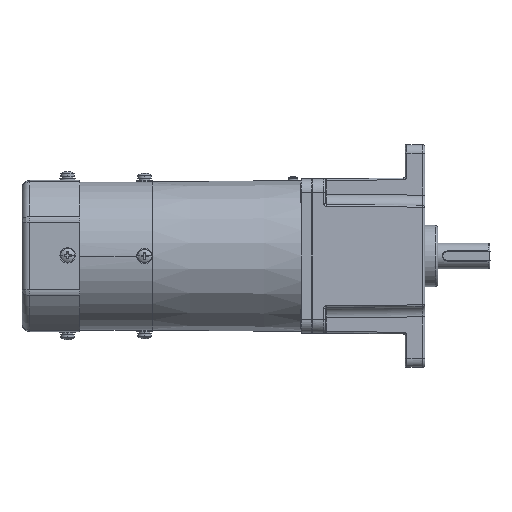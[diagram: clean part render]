
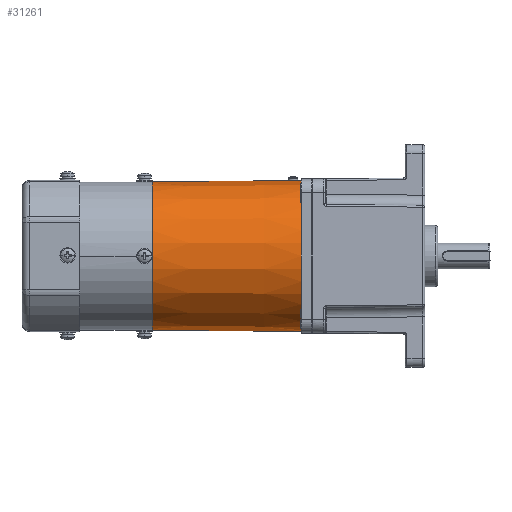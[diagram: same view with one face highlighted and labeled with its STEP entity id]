
A CAD part, front view. The second image highlights one B-rep face of the part: STEP entity #31261.
In plain terms, the highlighted conical face has half-angle 0.503 degrees and reference radius 43.236 mm.
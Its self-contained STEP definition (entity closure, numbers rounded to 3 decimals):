
#1905 = AXIS2_PLACEMENT_3D ( 'NONE', #7081, #46329, #18418 ) ;
#3068 = FACE_OUTER_BOUND ( 'NONE', #24271, .T. ) ;
#4113 = ORIENTED_EDGE ( 'NONE', *, *, #11724, .T. ) ;
#4123 = ORIENTED_EDGE ( 'NONE', *, *, #34391, .T. ) ;
#4534 = AXIS2_PLACEMENT_3D ( 'NONE', #41868, #7385, #8147 ) ;
#6750 = CONICAL_SURFACE ( 'NONE', #1905, 43.236, 0.009 ) ;
#6751 = CARTESIAN_POINT ( 'NONE',  ( 2545.293, -775.157, -43.236 ) ) ;
#7081 = CARTESIAN_POINT ( 'NONE',  ( 2545.293, -775.157, 0. ) ) ;
#7385 = DIRECTION ( 'NONE',  ( -1., 0., 0. ) ) ;
#8147 = DIRECTION ( 'NONE',  ( 0., 0., 1. ) ) ;
#9113 = EDGE_CURVE ( 'NONE', #12146, #20954, #45269, .T. ) ;
#10876 = DIRECTION ( 'NONE',  ( 1., 0., 0.009 ) ) ;
#11724 = EDGE_CURVE ( 'NONE', #20954, #23103, #22956, .T. ) ;
#11844 = CARTESIAN_POINT ( 'NONE',  ( -2380.797, -775.157, 0. ) ) ;
#12146 = VERTEX_POINT ( 'NONE', #6751 ) ;
#13004 = EDGE_CURVE ( 'NONE', #12146, #32248, #26234, .T. ) ;
#13140 = CARTESIAN_POINT ( 'NONE',  ( 2632.292, -775.157, 0. ) ) ;
#14449 = EDGE_CURVE ( 'NONE', #32248, #20740, #36306, .T. ) ;
#17664 = DIRECTION ( 'NONE',  ( -1., 0., 0. ) ) ;
#18012 = ORIENTED_EDGE ( 'NONE', *, *, #13004, .F. ) ;
#18418 = DIRECTION ( 'NONE',  ( 0., 0., -1. ) ) ;
#20202 = CARTESIAN_POINT ( 'NONE',  ( 2622.292, -775.157, 43.912 ) ) ;
#20740 = VERTEX_POINT ( 'NONE', #20202 ) ;
#20954 = VERTEX_POINT ( 'NONE', #38296 ) ;
#22630 = DIRECTION ( 'NONE',  ( 1., 0., -0.009 ) ) ;
#22956 = CIRCLE ( 'NONE', #36605, 44. ) ;
#23103 = VERTEX_POINT ( 'NONE', #24709 ) ;
#24271 = EDGE_LOOP ( 'NONE', ( #37264, #18012, #30547, #4113, #4123 ) ) ;
#24709 = CARTESIAN_POINT ( 'NONE',  ( 2632.292, -775.157, 44. ) ) ;
#26234 = CIRCLE ( 'NONE', #4534, 43.236 ) ;
#27681 = DIRECTION ( 'NONE',  ( -1., 0., -0.009 ) ) ;
#28577 = VECTOR ( 'NONE', #27681, 1000. ) ;
#30547 = ORIENTED_EDGE ( 'NONE', *, *, #9113, .T. ) ;
#31261 = ADVANCED_FACE ( 'NONE', ( #3068 ), #6750, .T. ) ;
#31623 = VECTOR ( 'NONE', #10876, 1000. ) ;
#31828 = VECTOR ( 'NONE', #22630, 1000. ) ;
#32248 = VERTEX_POINT ( 'NONE', #46157 ) ;
#34391 = EDGE_CURVE ( 'NONE', #23103, #20740, #46293, .T. ) ;
#36306 = LINE ( 'NONE', #48107, #31623 ) ;
#36605 = AXIS2_PLACEMENT_3D ( 'NONE', #13140, #17664, #44084 ) ;
#37264 = ORIENTED_EDGE ( 'NONE', *, *, #14449, .F. ) ;
#38257 = CARTESIAN_POINT ( 'NONE',  ( 2545.293, -775.157, -43.236 ) ) ;
#38296 = CARTESIAN_POINT ( 'NONE',  ( 2632.292, -775.157, -44. ) ) ;
#41868 = CARTESIAN_POINT ( 'NONE',  ( 2545.293, -775.157, 0. ) ) ;
#44084 = DIRECTION ( 'NONE',  ( 0., 0., -1. ) ) ;
#45269 = LINE ( 'NONE', #38257, #31828 ) ;
#46157 = CARTESIAN_POINT ( 'NONE',  ( 2545.293, -775.157, 43.236 ) ) ;
#46293 = LINE ( 'NONE', #11844, #28577 ) ;
#46329 = DIRECTION ( 'NONE',  ( 1., 0., 0. ) ) ;
#48107 = CARTESIAN_POINT ( 'NONE',  ( 2545.293, -775.157, 43.236 ) ) ;
